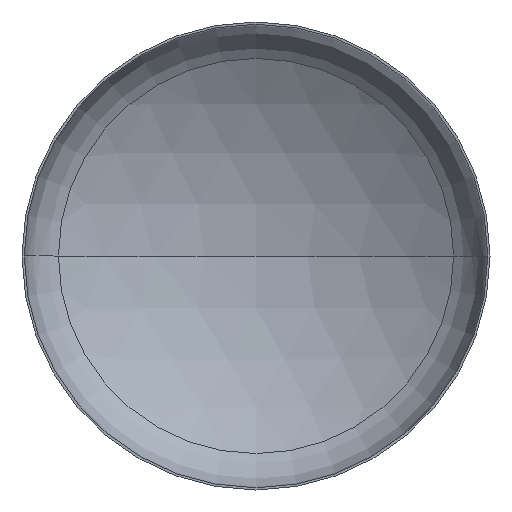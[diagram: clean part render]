
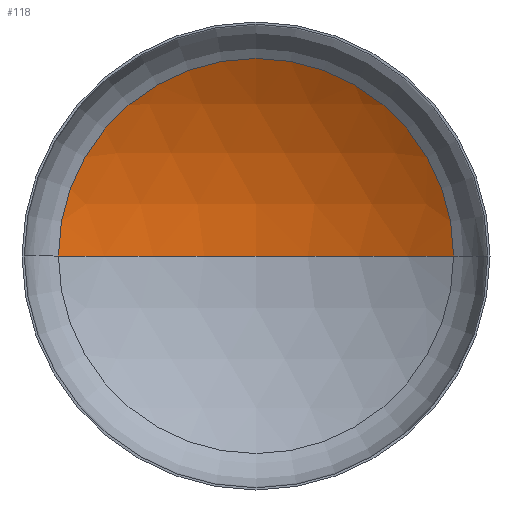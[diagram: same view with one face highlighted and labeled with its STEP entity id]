
A CAD part, front view. The second image highlights one B-rep face of the part: STEP entity #118.
In plain terms, the highlighted spherical face has radius 3600 mm.
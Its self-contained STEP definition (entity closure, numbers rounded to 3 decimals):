
#5 = CIRCLE ( 'NONE', #35, 3600. ) ;
#13 = VERTEX_POINT ( 'NONE', #247 ) ;
#35 = AXIS2_PLACEMENT_3D ( 'NONE', #232, #254, #253 ) ;
#38 = AXIS2_PLACEMENT_3D ( 'NONE', #44, #141, #164 ) ;
#39 = AXIS2_PLACEMENT_3D ( 'NONE', #265, #94, #408 ) ;
#41 = AXIS2_PLACEMENT_3D ( 'NONE', #191, #146, #147 ) ;
#44 = CARTESIAN_POINT ( 'NONE',  ( 0., -2397.577, 0. ) ) ;
#94 = DIRECTION ( 'NONE',  ( 0., -1., 0. ) ) ;
#106 = VERTEX_POINT ( 'NONE', #278 ) ;
#118 = ADVANCED_FACE ( 'NONE', ( #124 ), #202, .F. ) ;
#124 = FACE_OUTER_BOUND ( 'NONE', #175, .T. ) ;
#140 = EDGE_CURVE ( 'NONE', #13, #400, #275, .T. ) ;
#141 = DIRECTION ( 'NONE',  ( 0., 0., -1. ) ) ;
#146 = DIRECTION ( 'NONE',  ( 0., 0., -1. ) ) ;
#147 = DIRECTION ( 'NONE',  ( -1., 0., 0. ) ) ;
#149 = EDGE_CURVE ( 'NONE', #106, #13, #268, .T. ) ;
#159 = CARTESIAN_POINT ( 'NONE',  ( -1899.759, 660.35, 0. ) ) ;
#164 = DIRECTION ( 'NONE',  ( -1., 0., 0. ) ) ;
#165 = EDGE_CURVE ( 'NONE', #106, #400, #5, .T. ) ;
#175 = EDGE_LOOP ( 'NONE', ( #263, #410, #276 ) ) ;
#191 = CARTESIAN_POINT ( 'NONE',  ( 0., -2397.577, 0. ) ) ;
#202 = SPHERICAL_SURFACE ( 'NONE', #41, 3600. ) ;
#232 = CARTESIAN_POINT ( 'NONE',  ( 0., -2397.577, 0. ) ) ;
#247 = CARTESIAN_POINT ( 'NONE',  ( 1899.759, 660.35, 0. ) ) ;
#253 = DIRECTION ( 'NONE',  ( 1., 0., 0. ) ) ;
#254 = DIRECTION ( 'NONE',  ( 0., 0., 1. ) ) ;
#263 = ORIENTED_EDGE ( 'NONE', *, *, #165, .F. ) ;
#265 = CARTESIAN_POINT ( 'NONE',  ( 0., 660.35, 0. ) ) ;
#268 = CIRCLE ( 'NONE', #38, 3600. ) ;
#275 = CIRCLE ( 'NONE', #39, 1899.759 ) ;
#276 = ORIENTED_EDGE ( 'NONE', *, *, #140, .T. ) ;
#278 = CARTESIAN_POINT ( 'NONE',  ( 0., 1202.423, 0. ) ) ;
#400 = VERTEX_POINT ( 'NONE', #159 ) ;
#408 = DIRECTION ( 'NONE',  ( 1., 0., 0. ) ) ;
#410 = ORIENTED_EDGE ( 'NONE', *, *, #149, .T. ) ;
